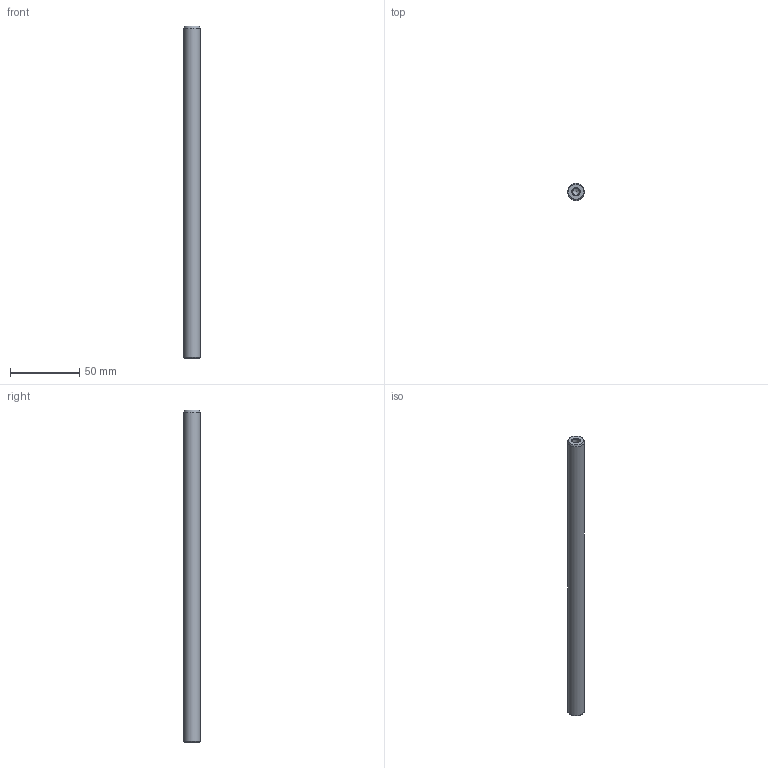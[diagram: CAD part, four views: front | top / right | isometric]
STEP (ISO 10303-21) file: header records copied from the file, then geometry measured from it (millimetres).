
FILE_DESCRIPTION( ( 'STEP AP214' ), '1' );
FILE_NAME( 'U:/Etudes/Top Solid/BIBLIO_Fournisseur/Colonnes UG/Ø12x239.step', '2004-12-22T12:34:04', ( ' ' ), ( ' ' ), 'XStep 1.0', ' ', ' ' );
FILE_SCHEMA( ( 'automotive_design' ) );
Length unit declared in the file: metre
Products named in the file (1): 1
Bounding box: 12 x 12 x 239 mm (x, y, z)
Volume: 26518.1 mm3; surface area: 9617.1 mm2
Topology: 1 solids, 1 shells, 13 faces, 27 edges, 16 vertices
Faces by surface type: cone 6, cylinder 5, plane 2
Full cylindrical faces by diameter (mm): 4.134 x2, 4.918 x2, 12 x1
Entity records: 382 total; most frequent: DIRECTION 52, CARTESIAN_POINT 40, AXIS2_PLACEMENT_3D 26, EDGE_LOOP 24, ORIENTED_EDGE 24, FACE_OUTER_BOUND 18, VERTEX_POINT 14, STYLED_ITEM 13
